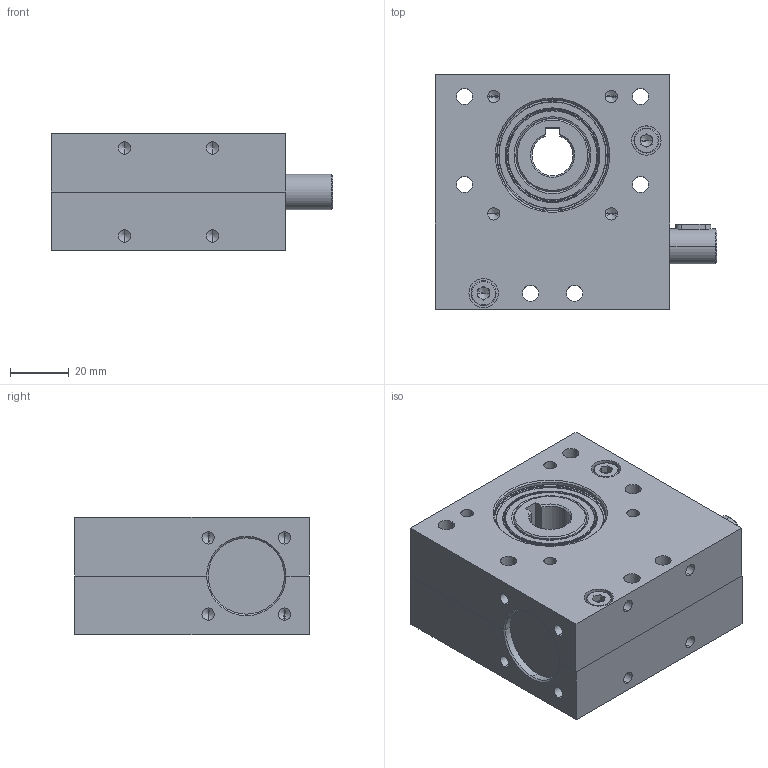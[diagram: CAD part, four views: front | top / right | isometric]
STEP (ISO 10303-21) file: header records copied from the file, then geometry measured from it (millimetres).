
FILE_DESCRIPTION (( 'STEP AP214' ), '1' );
FILE_NAME ('SN26H-A31_EW-1.STEP', '2024-09-03T12:05:38', ( '' ), ( '' ), 'SwSTEP 2.0', 'SolidWorks 2021', '' );
FILE_SCHEMA (( 'AUTOMOTIVE_DESIGN' ));
Length unit declared in the file: millimetre
Products named in the file (12): 25x42x9 - 6905_2RS; Sicherungsring DIN 471 - 12x1; K_28x7.0; 26H-A31-G-001_3D-Export; CLA-B31-W-001_3D-Export; CLA-B31-EW-001_3D-Export; PF_A4x4x12_A2; PS_20x28xBedarfsbreite; 12x28x8 - 6001_2RS; PS_12x18xBedarfsbreite; SN26H-A31_EW-1; socket head cap screw_iso_ISO 4762 M5 x 25 - 25C
Assembly tree (16 placements, depth 2):
  SN26H-A31_EW-1
    26H-A31-G-001_3D-Export  x2
    CLA-B31-W-001_3D-Export
    CLA-B31-EW-001_3D-Export
    25x42x9 - 6905_2RS  x2
    K_28x7.0
    12x28x8 - 6001_2RS
    PS_20x28xBedarfsbreite
    PS_12x18xBedarfsbreite
    Sicherungsring DIN 471 - 12x1
    PF_A4x4x12_A2
    socket head cap screw_iso_ISO 4762 M5 x 25 - 25C  x4
Bounding box: 96 x 80 x 40 mm (x, y, z)
Volume: 211258.7 mm3; surface area: 81678.4 mm2
Topology: 37 solids, 37 shells, 711 faces, 1707 edges, 1043 vertices
Faces by surface type: cylinder 248, cone 198, plane 151, torus 90, sphere 24
Entity records: 15553 total; most frequent: DIRECTION 2455, CARTESIAN_POINT 2099, ORIENTED_EDGE 1930, AXIS2_PLACEMENT_3D 1048, EDGE_CURVE 965, VERTEX_POINT 616, CIRCLE 600, EDGE_LOOP 503
